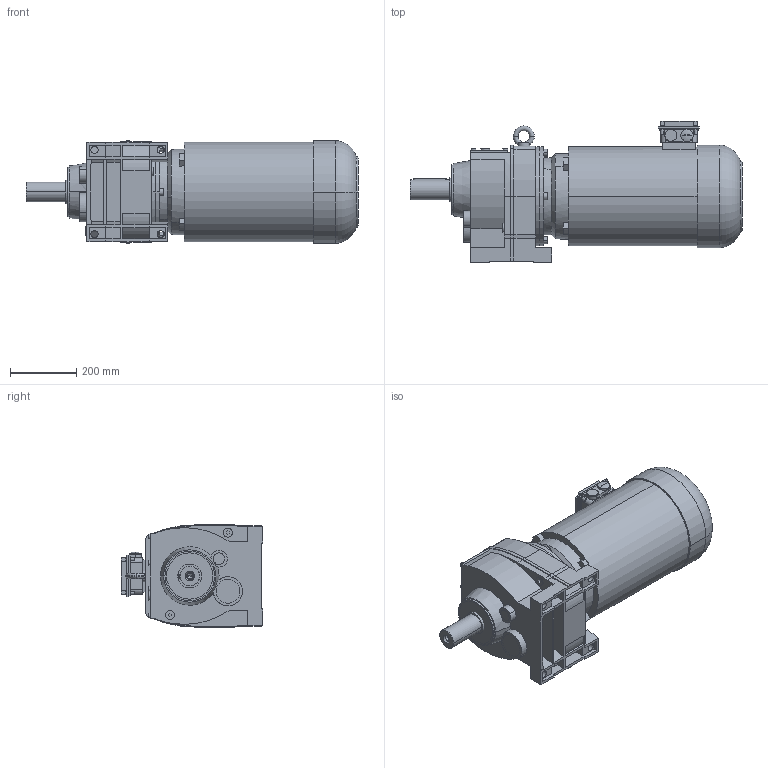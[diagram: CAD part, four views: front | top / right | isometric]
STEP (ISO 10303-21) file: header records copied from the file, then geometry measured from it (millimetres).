
FILE_DESCRIPTION(('STEP AP214'),'1');
FILE_NAME('STEP-File.stp','2018-01-01T00:00:00',(' '),('KEB'),' ','KEB-DRIVE',' ');
FILE_SCHEMA(('AUTOMOTIVE_DESIGN { 1 0 10303 214 1 1 1 1 }'));
Length unit declared in the file: millimetre
Products named in the file (9): g6a; w6_we_60x120; cs6; dm160_kkn; kk10; PLUG_M32; SCREW-PLUG_M32; ndm160; G63A DM160MB4§CAD13
Assembly tree (8 placements, depth 2):
  G63A DM160MB4§CAD13
    g6a
    w6_we_60x120
    cs6
    dm160_kkn
    kk10
    PLUG_M32
    SCREW-PLUG_M32
    ndm160
Bounding box: 1003.49 x 426.6 x 310 mm (x, y, z)
Volume: 62649905.8 mm3; surface area: 1730541.3 mm2
Topology: 8 solids, 8 shells, 408 faces, 1036 edges, 682 vertices
Faces by surface type: plane 263, cylinder 112, cone 17, torus 16
Entity records: 13806 total; most frequent: CARTESIAN_POINT 4000, ORIENTED_EDGE 2068, DIRECTION 1832, EDGE_CURVE 1034, VERTEX_POINT 682, VECTOR 678, LINE 678, AXIS2_PLACEMENT_3D 577
